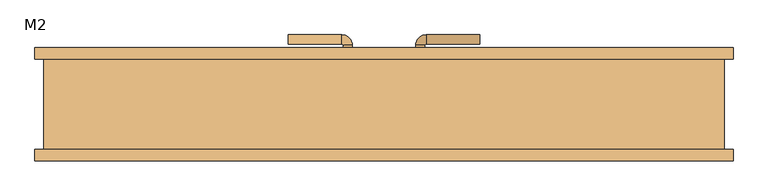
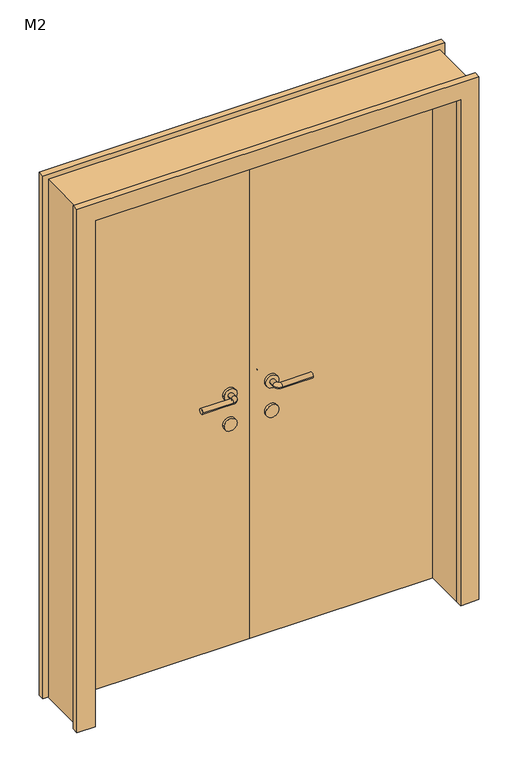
"""IFC4 building model written with IfcOpenShell, lengths in millimetres: door geometry, 双面嵌板木门 1 : M2."""

import ifcopenshell
import ifcopenshell.guid

model = None  # the IFC model being written
_history = None  # IfcOwnerHistory: only IFC2X3 demands one
_inside = {}  # id of a spatial element -> (the spatial element, [elements in it])
_under = {}  # id of a project, library or spatial element -> (it, [spatial elements below it])
_declared = {}  # id of a project -> (the project, [libraries it declares])
_typed = {}  # id of a type object -> (the type object, [elements of that type])
_made_of = {}  # id of a material, layer set ... -> (it, [elements and type objects made of it])


def new_model(schema):
    """Start an empty IFC model of exactly this schema.

    Asked for "IFC4X3", IfcOpenShell would pick the latest addendum, in which some entities
    have other attributes; the version numbers below select the first issue.
    IFC2X3 requires an IfcOwnerHistory on every rooted entity: one is made here for all.
    """
    global model, _history
    if schema == "IFC4X3":
        model = ifcopenshell.file(schema_version=(4, 3, 0, 0))
    else:
        model = ifcopenshell.file(schema=schema)
    _inside.clear()
    _under.clear()
    _declared.clear()
    _typed.clear()
    _made_of.clear()
    _history = None
    if model.schema == "IFC2X3":
        org = make("IfcOrganization", Name="unknown")
        user = make(
            "IfcPersonAndOrganization",
            ThePerson=make("IfcPerson", FamilyName="unknown"),
            TheOrganization=org,
        )
        app = make(
            "IfcApplication",
            ApplicationDeveloper=org,
            Version="unknown",
            ApplicationFullName="unknown",
            ApplicationIdentifier="unknown",
        )
        _history = make(
            "IfcOwnerHistory",
            OwningUser=user,
            OwningApplication=app,
            ChangeAction="ADDED",
            CreationDate=0,
        )
    return model


def make(cls, **values):
    """One entity of the class cls with the attributes given. An attribute that is None is left unset."""
    return model.create_entity(
        cls, **{name: value for name, value in values.items() if value is not None}
    )


def rooted(cls, **values):
    """An entity with a GlobalId (a new one), such as an element, a storey or a relation."""
    return make(cls, GlobalId=ifcopenshell.guid.new(), OwnerHistory=_history, **values)


def si_unit(unit_type, name, prefix=None):
    """IfcSIUnit, for example si_unit("LENGTHUNIT", "METRE", prefix="MILLI")."""
    return make("IfcSIUnit", UnitType=unit_type, Prefix=prefix, Name=name)


def assignment(units):
    """IfcUnitAssignment: the units of a project."""
    return None if units is None else make("IfcUnitAssignment", Units=units)


def point(xyz):
    """IfcCartesianPoint."""
    return None if xyz is None else make("IfcCartesianPoint", Coordinates=xyz)


def direction(xyz):
    """IfcDirection."""
    return None if xyz is None else make("IfcDirection", DirectionRatios=xyz)


def frame(location, z_axis=None, x_axis=None):
    """IfcAxis2Placement3D, a coordinate frame: its origin and axes. An axis left out is left unset."""
    return make(
        "IfcAxis2Placement3D",
        Location=point(location),
        Axis=direction(z_axis),
        RefDirection=direction(x_axis),
    )


def frame_2d(location, x_axis=None):
    """IfcAxis2Placement2D, a coordinate frame in the plane: its origin and x axis."""
    return make(
        "IfcAxis2Placement2D", Location=point(location), RefDirection=direction(x_axis)
    )


def origin():
    """The frame at (0, 0, 0) with its axes left unset."""
    return frame((0.0, 0.0, 0.0))


def origin_with_axes():
    """The frame at (0, 0, 0) with the z axis (0, 0, 1) and the x axis (1, 0, 0) written out."""
    return frame((0.0, 0.0, 0.0), z_axis=(0.0, 0.0, 1.0), x_axis=(1.0, 0.0, 0.0))


def place(relative_to, where):
    """IfcLocalPlacement: puts the frame where relative to a parent placement (None: the world)."""
    return make(
        "IfcLocalPlacement", PlacementRelTo=relative_to, RelativePlacement=where
    )


def context(
    kind, dimensions, precision=None, world=None, true_north=None, identifier=None
):
    """IfcGeometricRepresentationContext, for example the 3D "Model" context."""
    return make(
        "IfcGeometricRepresentationContext",
        ContextIdentifier=identifier,
        ContextType=kind,
        CoordinateSpaceDimension=dimensions,
        Precision=precision,
        WorldCoordinateSystem=world,
        TrueNorth=true_north,
    )


def project(units=None, contexts=None):
    """IfcProject with its units and contexts."""
    return rooted(
        "IfcProject",
        Name="project",
        RepresentationContexts=contexts,
        UnitsInContext=assignment(units),
    )


def spatial(cls, under=None, at=None, **own):
    """A site, building, storey or space (cls), placed at a placement, below another one or the project."""
    s = rooted(cls, ObjectPlacement=at, **own)
    if under is not None:
        _under.setdefault(under.id(), (under, []))[1].append(s)
    return s


def polyline(points):
    """IfcPolyline through the points."""
    return make("IfcPolyline", Points=[point(p) for p in points])


def circle_curve(where, radius):
    """IfcCircle in the frame where."""
    return make("IfcCircle", Position=where, Radius=radius)


def ellipse_curve(where, semi_axis1, semi_axis2):
    """IfcEllipse in the frame where."""
    return make(
        "IfcEllipse", Position=where, SemiAxis1=semi_axis1, SemiAxis2=semi_axis2
    )


def trimmed(basis, trim1, trim2, sense, master):
    """IfcTrimmedCurve: the piece of a basis curve between two trims."""
    return make(
        "IfcTrimmedCurve",
        BasisCurve=basis,
        Trim1=trim1,
        Trim2=trim2,
        SenseAgreement=sense,
        MasterRepresentation=master,
    )


def segment(curve, same_sense, transition):
    """IfcCompositeCurveSegment."""
    return make(
        "IfcCompositeCurveSegment",
        Transition=transition,
        SameSense=same_sense,
        ParentCurve=curve,
    )


def composite_curve(segments, self_intersect=None):
    """IfcCompositeCurve: segments joined end to end."""
    return make("IfcCompositeCurve", Segments=segments, SelfIntersect=self_intersect)


def outline(outer, holes=None, kind="AREA"):
    """IfcArbitraryClosedProfileDef: a profile drawn as a closed curve; with holes, ...WithVoids."""
    if holes is None:
        return make("IfcArbitraryClosedProfileDef", ProfileType=kind, OuterCurve=outer)
    return make(
        "IfcArbitraryProfileDefWithVoids",
        ProfileType=kind,
        OuterCurve=outer,
        InnerCurves=holes,
    )


def extrude(swept, where, along, depth):
    """IfcExtrudedAreaSolid: the profile swept, set in the frame where, extruded along a direction by depth."""
    return make(
        "IfcExtrudedAreaSolid",
        SweptArea=swept,
        Position=where,
        ExtrudedDirection=direction(along),
        Depth=depth,
    )


def shape(context_of_items, identifier, shape_type, items):
    """IfcShapeRepresentation: the items that make up one representation, for example the "Body"."""
    return make(
        "IfcShapeRepresentation",
        ContextOfItems=context_of_items,
        RepresentationIdentifier=identifier,
        RepresentationType=shape_type,
        Items=items,
    )


def source(mapping_origin, context_of_items, identifier, shape_type, items):
    """IfcRepresentationMap: a shape defined once, which mapped items show again and again."""
    return make(
        "IfcRepresentationMap",
        MappingOrigin=mapping_origin,
        MappedRepresentation=shape(context_of_items, identifier, shape_type, items),
    )


def transform(
    local_origin,
    x_axis=None,
    y_axis=None,
    z_axis=None,
    scale=None,
    scale2=None,
    scale3=None,
    uniform=True,
):
    """IfcCartesianTransformationOperator3D, or its non-uniform kind. x_axis, y_axis, z_axis: its Axis1, 2, 3."""
    if uniform:
        return make(
            "IfcCartesianTransformationOperator3D",
            Axis1=direction(x_axis),
            Axis2=direction(y_axis),
            LocalOrigin=point(local_origin),
            Scale=scale,
            Axis3=direction(z_axis),
        )
    return make(
        "IfcCartesianTransformationOperator3DnonUniform",
        Axis1=direction(x_axis),
        Axis2=direction(y_axis),
        LocalOrigin=point(local_origin),
        Scale=scale,
        Axis3=direction(z_axis),
        Scale2=scale2,
        Scale3=scale3,
    )


def mapped(mapping_source, mapping_target):
    """IfcMappedItem: shows the shape of a source again, moved by a transform."""
    return make(
        "IfcMappedItem", MappingSource=mapping_source, MappingTarget=mapping_target
    )


def made_of(thing, what):
    """Note that an element or type object is made of a material, layer set ...; save() writes the relation."""
    if what is not None:
        _made_of.setdefault(what.id(), (what, []))[1].append(thing)
    return thing


def element(
    cls,
    number,
    at=None,
    inside=None,
    cuts=None,
    type_object=None,
    material=None,
    context=None,
    identifier="Body",
    shape_type=None,
    held_by="IfcProductDefinitionShape",
    body=None,
    shapes=None,
    **own,
):
    """One element of the class cls, such as IfcWall. Its Tag is "e" and its number.

    at: its placement. inside: the storey or other place that contains it. cuts: it is an
    opening in that element (IfcRelVoidsElement). A single representation is given by context,
    identifier, shape_type and body (its items); several are given by shapes. held_by: the class
    of the entity that holds the representations. save() writes the other relations.
    """
    e = rooted(cls, Tag="e%d" % number, ObjectPlacement=at, **own)
    if body is not None:
        shapes = [shape(context, identifier, shape_type, body)]
    if shapes is not None:
        e.Representation = make(held_by, Representations=shapes)
    if inside is not None:
        _inside.setdefault(inside.id(), (inside, []))[1].append(e)
    if cuts is not None:
        rooted(
            "IfcRelVoidsElement", RelatingBuildingElement=cuts, RelatedOpeningElement=e
        )
    if type_object is not None:
        _typed.setdefault(type_object.id(), (type_object, []))[1].append(e)
    return made_of(e, material)


def aggregate(whole, parts):
    """IfcRelAggregates: a whole, such as a stair, and the parts it consists of."""
    return rooted("IfcRelAggregates", RelatingObject=whole, RelatedObjects=parts)


def save(model, path):
    """Write the relations noted so far, then the file.

    IfcRelAggregates (storeys below a building ...), IfcRelContainedInSpatialStructure (elements
    in a storey), IfcRelDefinesByType, IfcRelAssociatesMaterial and IfcRelDeclares: one each for
    every whole, place, type object, material and project.
    """
    for whole, parts in _under.values():
        aggregate(whole, parts)
    for where, things in _inside.values():
        rooted(
            "IfcRelContainedInSpatialStructure",
            RelatedElements=things,
            RelatingStructure=where,
        )
    for kind, things in _typed.values():
        rooted("IfcRelDefinesByType", RelatedObjects=things, RelatingType=kind)
    for what, things in _made_of.values():
        rooted("IfcRelAssociatesMaterial", RelatedObjects=things, RelatingMaterial=what)
    for by, libraries in _declared.values():
        rooted("IfcRelDeclares", RelatingContext=by, RelatedDefinitions=libraries)
    model.write(path)


def plane_surface(at):
    """IfcPlane: the flat surface through the origin of the frame at, square to its z axis."""
    return make("IfcPlane", Position=at)


def cylinder_surface(at, radius):
    """IfcCylindricalSurface: all points at the distance radius from the z axis of the frame at."""
    return make("IfcCylindricalSurface", Position=at, Radius=radius)


def revolved_surface(curve, axis_point, axis_direction):
    """IfcSurfaceOfRevolution: the curve turned about the line through axis_point along axis_direction."""
    return make(
        "IfcSurfaceOfRevolution",
        SweptCurve=make("IfcArbitraryOpenProfileDef", ProfileType="CURVE", Curve=curve),
        AxisPosition=make("IfcAxis1Placement", Location=point(axis_point), Axis=direction(axis_direction)),
    )


def advanced_brep(points, edges, surfaces, faces):
    """IfcAdvancedBrep: a solid bounded by faces that lie on surfaces and meet in shared edges.

    An edge is (start, end): straight between two places in points (the first is 0);
    or (start, end, curve); or (start, end, curve, False) where it runs against its curve.
    A face is (place in surfaces, loops), or (place, loops, False) where it looks against
    its surface's normal. A loop lists edges by number (the first is 1), with a minus sign
    where the edge is run from its end to its start. The first loop is the outer one.
    """
    corners = [point(p) for p in points]
    vertices = [make("IfcVertexPoint", VertexGeometry=c) for c in corners]
    made = []
    for start, end, *more in edges:
        made.append(
            make(
                "IfcEdgeCurve",
                EdgeStart=vertices[start],
                EdgeEnd=vertices[end],
                EdgeGeometry=more[0] if more else make("IfcPolyline", Points=[corners[start], corners[end]]),
                SameSense=more[1] if len(more) > 1 else True,
            )
        )
    hull = []
    for where, loops, *sense in faces:
        bounds = []
        for j, loop in enumerate(loops):
            ring = [make("IfcOrientedEdge", EdgeElement=made[abs(k) - 1], Orientation=k > 0) for k in loop]
            bounds.append(
                make(
                    "IfcFaceOuterBound" if j == 0 else "IfcFaceBound",
                    Bound=make("IfcEdgeLoop", EdgeList=ring),
                    Orientation=True,
                )
            )
        hull.append(make("IfcAdvancedFace", Bounds=bounds, FaceSurface=surfaces[where], SameSense=sense[0] if sense else True))
    return make("IfcAdvancedBrep", Outer=make("IfcClosedShell", CfsFaces=hull))


def m2_692f9d9b(model_context):
    return source(origin(), model_context, "Body", "SolidModel", [
        extrude(outline(composite_curve([segment(trimmed(circle_curve(frame_2d((900.0, 80.0)), 25.0), [point((900.0, 105.0))], [point((900.0, 55.0))], False, "CARTESIAN"), True, "CONTINUOUS"), segment(trimmed(circle_curve(frame_2d((900.0, 80.0)), 25.0), [point((900.0, 55.0))], [point((900.0, 105.0))], False, "CARTESIAN"), True, "CONTINUOUS")], self_intersect=False)), frame((0.0, 100.0, 0.0), z_axis=(0.0, 1.0, 0.0), x_axis=(0.0, 0.0, 1.0)), (0.0, 0.0, 1.0), 10.0),
        extrude(outline(composite_curve([segment(trimmed(circle_curve(frame_2d((900.0, 80.0)), 25.0), [point((900.0, 105.0))], [point((900.0, 55.0))], False, "CARTESIAN"), True, "CONTINUOUS"), segment(trimmed(circle_curve(frame_2d((900.0, 80.0)), 25.0), [point((900.0, 55.0))], [point((900.0, 105.0))], False, "CARTESIAN"), True, "CONTINUOUS")], self_intersect=False)), frame((0.0, 50.0, 0.0), z_axis=(0.0, 1.0, 0.0), x_axis=(0.0, 0.0, 1.0)), (0.0, 0.0, 1.0), 10.0),
        advanced_brep(
        [(70.0, 110.0, 1020.0), (90.0, 110.0, 1020.0), (70.0, 130.6133551, 1020.0), (90.0, 130.6133551, 1020.0), (211.580964, 153.580964, 1020.0), (211.580964, 133.580964, 1020.0), (92.9676089, 133.580964, 1020.0), (92.9676089, 153.580964, 1020.0)],
        [
            (0, 1, circle_curve(frame((80.0, 110.0, 1020.0), z_axis=(0.0, -1.0, 0.0), x_axis=(1.0, 0.0, 0.0)), 10.0)),
            (1, 0, circle_curve(frame((80.0, 110.0, 1020.0), z_axis=(0.0, -1.0, 0.0), x_axis=(1.0, 0.0, 0.0)), 10.0)),
            (0, 2),
            (2, 3, circle_curve(frame((80.0, 130.6133551, 1020.0), z_axis=(0.0, -1.0, 0.0), x_axis=(1.0, 0.0, 0.0)), 10.0)),
            (3, 1),
            (3, 2, circle_curve(frame((80.0, 130.6133551, 1020.0), z_axis=(0.0, -1.0, 0.0), x_axis=(1.0, 0.0, 0.0)), 10.0)),
            (4, 5, circle_curve(frame((211.580964, 143.580964, 1020.0), z_axis=(1.0, 0.0, 0.0), x_axis=(0.0, -1.0, 0.0)), 10.0)),
            (5, 4, circle_curve(frame((211.580964, 143.580964, 1020.0), z_axis=(1.0, 0.0, 0.0), x_axis=(0.0, -1.0, 0.0)), 10.0)),
            (6, 7, circle_curve(frame((92.9676089, 143.580964, 1020.0), z_axis=(-1.0, 0.0, 0.0), x_axis=(0.0, -1.0, 0.0)), 10.0)),
            (7, 2, circle_curve(frame((92.9676089, 130.6133551, 1020.0), z_axis=(0.0, 0.0, 1.0), x_axis=(-1.0, 0.0, 0.0)), 22.9676089)),
            (3, 6, circle_curve(frame((92.9676089, 130.6133551, 1020.0), z_axis=(0.0, 0.0, -1.0), x_axis=(-1.0, 0.0, 0.0)), 2.9676089)),
            (7, 6, circle_curve(frame((92.9676089, 143.580964, 1020.0), z_axis=(-1.0, 0.0, 0.0), x_axis=(0.0, -1.0, 0.0)), 10.0)),
            (6, 5),
            (4, 7),
        ],
        [
            plane_surface(frame((80.0, 110.0, 900.0), z_axis=(0.0, -1.0, 0.0), x_axis=(0.0, 0.0, 1.0))),
            cylinder_surface(frame((80.0, 110.0, 1020.0), z_axis=(0.0, -1.0, 0.0), x_axis=(1.0, 0.0, 0.0)), 10.0),
            plane_surface(frame((211.580964, 143.580964, 900.0), z_axis=(1.0, 0.0, 0.0), x_axis=(0.0, 0.0, 1.0))),
            revolved_surface(trimmed(ellipse_curve(frame((80.0, 130.6133551, 1020.0), z_axis=(0.0, 1.0, 0.0), x_axis=(1.0, 0.0, 0.0)), 10.0, 10.0), [point((70.0, 130.6133551, 1020.0))], [point((90.0, 130.6133551, 1020.0))], True, "CARTESIAN"), (92.9676089, 130.6133551, 900.0), (0.0, 0.0, 1.0)),
            revolved_surface(trimmed(ellipse_curve(frame((80.0, 130.6133551, 1020.0), z_axis=(0.0, 1.0, 0.0), x_axis=(1.0, 0.0, 0.0)), 10.0, 10.0), [point((90.0, 130.6133551, 1020.0))], [point((70.0, 130.6133551, 1020.0))], True, "CARTESIAN"), (92.9676089, 130.6133551, 900.0), (0.0, 0.0, 1.0)),
            cylinder_surface(frame((92.9676089, 143.580964, 1020.0), z_axis=(-1.0, 0.0, 0.0), x_axis=(0.0, -1.0, 0.0)), 10.0),
        ],
        [
            (0, [[1, 2]]),
            (1, [[3, 4, 5, -1]]),
            (1, [[-5, 6, -3, -2]]),
            (2, [[7, 8]]),
            (3, [[9, 10, -6, 11]]),
            (4, [[12, -11, -4, -10]]),
            (5, [[13, -7, 14, -9]]),
            (5, [[-14, -8, -13, -12]]),
        ],
    ),
        extrude(outline(composite_curve([segment(trimmed(circle_curve(frame_2d((1020.0, 80.0)), 25.0), [point((1020.0, 105.0))], [point((1020.0, 55.0))], False, "CARTESIAN"), True, "CONTINUOUS"), segment(trimmed(circle_curve(frame_2d((1020.0, 80.0)), 25.0), [point((1020.0, 55.0))], [point((1020.0, 105.0))], False, "CARTESIAN"), True, "CONTINUOUS")], self_intersect=False)), frame((0.0, 100.0, 0.0), z_axis=(0.0, 1.0, 0.0), x_axis=(0.0, 0.0, 1.0)), (0.0, 0.0, 1.0), 10.0),
        advanced_brep(
        [(90.0, 50.0, 1020.0), (70.0, 50.0, 1020.0), (70.0, 29.386645, 1020.0), (90.0, 29.386645, 1020.0), (211.580964, 26.419036, 1020.0), (211.580964, 6.419036, 1020.0), (92.9676089, 6.419036, 1020.0), (92.9676089, 26.419036, 1020.0)],
        [
            (0, 1, circle_curve(frame((80.0, 50.0, 1020.0), z_axis=(0.0, 1.0, 0.0), x_axis=(-1.0, 0.0, 0.0)), 10.0)),
            (1, 0, circle_curve(frame((80.0, 50.0, 1020.0), z_axis=(0.0, 1.0, 0.0), x_axis=(-1.0, 0.0, 0.0)), 10.0)),
            (1, 2),
            (2, 3, circle_curve(frame((80.0, 29.386645, 1020.0), z_axis=(0.0, 1.0, 0.0), x_axis=(-1.0, 0.0, 0.0)), 10.0)),
            (3, 0),
            (3, 2, circle_curve(frame((80.0, 29.386645, 1020.0), z_axis=(0.0, 1.0, 0.0), x_axis=(-1.0, 0.0, 0.0)), 10.0)),
            (4, 5, circle_curve(frame((211.580964, 16.419036, 1020.0), z_axis=(1.0, 0.0, 0.0), x_axis=(0.0, -1.0, 0.0)), 10.0)),
            (5, 4, circle_curve(frame((211.580964, 16.419036, 1020.0), z_axis=(1.0, 0.0, 0.0), x_axis=(0.0, -1.0, 0.0)), 10.0)),
            (6, 7, circle_curve(frame((92.9676089, 16.419036, 1020.0), z_axis=(-1.0, 0.0, 0.0), x_axis=(0.0, -1.0, 0.0)), 10.0)),
            (7, 3, circle_curve(frame((92.9676089, 29.386645, 1020.0), z_axis=(0.0, 0.0, -1.0), x_axis=(-1.0, 0.0, 0.0)), 2.9676089)),
            (2, 6, circle_curve(frame((92.9676089, 29.386645, 1020.0), z_axis=(0.0, 0.0, 1.0), x_axis=(-1.0, 0.0, 0.0)), 22.9676089)),
            (7, 6, circle_curve(frame((92.9676089, 16.419036, 1020.0), z_axis=(-1.0, 0.0, 0.0), x_axis=(0.0, -1.0, 0.0)), 10.0)),
            (6, 5),
            (4, 7),
        ],
        [
            plane_surface(frame((80.0, 50.0, 900.0), z_axis=(0.0, 1.0, 0.0), x_axis=(0.0, 0.0, 1.0))),
            cylinder_surface(frame((80.0, 50.0, 1020.0), z_axis=(0.0, 1.0, 0.0), x_axis=(-1.0, 0.0, 0.0)), 10.0),
            plane_surface(frame((211.580964, 16.419036, 900.0), z_axis=(1.0, 0.0, 0.0), x_axis=(0.0, 0.0, 1.0))),
            revolved_surface(trimmed(ellipse_curve(frame((80.0, 29.386645, 1020.0), z_axis=(0.0, -1.0, 0.0), x_axis=(-1.0, 0.0, 0.0)), 10.0, 10.0), [point((90.0, 29.386645, 1020.0))], [point((70.0, 29.386645, 1020.0))], True, "CARTESIAN"), (92.9676089, 29.386645, 900.0), (0.0, 0.0, -1.0)),
            revolved_surface(trimmed(ellipse_curve(frame((80.0, 29.386645, 1020.0), z_axis=(0.0, -1.0, 0.0), x_axis=(-1.0, 0.0, 0.0)), 10.0, 10.0), [point((70.0, 29.386645, 1020.0))], [point((90.0, 29.386645, 1020.0))], True, "CARTESIAN"), (92.9676089, 29.386645, 900.0), (0.0, 0.0, -1.0)),
            cylinder_surface(frame((92.9676089, 16.419036, 1020.0), z_axis=(-1.0, 0.0, 0.0), x_axis=(0.0, -1.0, 0.0)), 10.0),
        ],
        [
            (0, [[1, 2]]),
            (1, [[3, 4, 5, -2]]),
            (1, [[-5, 6, -3, -1]]),
            (2, [[7, 8]]),
            (3, [[9, 10, -4, 11]]),
            (4, [[12, -11, -6, -10]]),
            (5, [[13, -7, 14, -9]]),
            (5, [[-14, -8, -13, -12]]),
        ],
    ),
        extrude(outline(composite_curve([segment(trimmed(circle_curve(frame_2d((1020.0, 80.0)), 25.0), [point((1020.0, 105.0))], [point((1020.0, 55.0))], False, "CARTESIAN"), True, "CONTINUOUS"), segment(trimmed(circle_curve(frame_2d((1020.0, 80.0)), 25.0), [point((1020.0, 55.0))], [point((1020.0, 105.0))], False, "CARTESIAN"), True, "CONTINUOUS")], self_intersect=False)), frame((0.0, 50.0, 0.0), z_axis=(0.0, 1.0, 0.0), x_axis=(0.0, 0.0, 1.0)), (0.0, 0.0, 1.0), 10.0),
        extrude(outline(composite_curve([segment(trimmed(circle_curve(frame_2d((900.0, -80.0)), 25.0), [point((900.0, -105.0))], [point((900.0, -55.0))], False, "CARTESIAN"), True, "CONTINUOUS"), segment(trimmed(circle_curve(frame_2d((900.0, -80.0)), 25.0), [point((900.0, -55.0))], [point((900.0, -105.0))], False, "CARTESIAN"), True, "CONTINUOUS")], self_intersect=False)), frame((0.0, 100.0, 0.0), z_axis=(0.0, 1.0, 0.0), x_axis=(0.0, 0.0, 1.0)), (0.0, 0.0, 1.0), 10.0),
        extrude(outline(composite_curve([segment(trimmed(circle_curve(frame_2d((900.0, -80.0)), 25.0), [point((900.0, -105.0))], [point((900.0, -55.0))], False, "CARTESIAN"), True, "CONTINUOUS"), segment(trimmed(circle_curve(frame_2d((900.0, -80.0)), 25.0), [point((900.0, -55.0))], [point((900.0, -105.0))], False, "CARTESIAN"), True, "CONTINUOUS")], self_intersect=False)), frame((0.0, 50.0, 0.0), z_axis=(0.0, 1.0, 0.0), x_axis=(0.0, 0.0, 1.0)), (0.0, 0.0, 1.0), 10.0),
        advanced_brep(
        [(-70.0, 110.0, 1020.0), (-90.0, 110.0, 1020.0), (-90.0, 130.6133551, 1020.0), (-70.0, 130.6133551, 1020.0), (-211.580964, 153.580964, 1020.0), (-211.580964, 133.580964, 1020.0), (-92.9676089, 133.580964, 1020.0), (-92.9676089, 153.580964, 1020.0)],
        [
            (0, 1, circle_curve(frame((-80.0, 110.0, 1020.0), z_axis=(0.0, -1.0, 0.0), x_axis=(-1.0, 0.0, 0.0)), 10.0)),
            (1, 0, circle_curve(frame((-80.0, 110.0, 1020.0), z_axis=(0.0, -1.0, 0.0), x_axis=(-1.0, 0.0, 0.0)), 10.0)),
            (1, 2),
            (2, 3, circle_curve(frame((-80.0, 130.6133551, 1020.0), z_axis=(0.0, -1.0, 0.0), x_axis=(-1.0, 0.0, 0.0)), 10.0)),
            (3, 0),
            (3, 2, circle_curve(frame((-80.0, 130.6133551, 1020.0), z_axis=(0.0, -1.0, 0.0), x_axis=(-1.0, 0.0, 0.0)), 10.0)),
            (4, 5, circle_curve(frame((-211.580964, 143.580964, 1020.0), z_axis=(-1.0, 0.0, 0.0), x_axis=(0.0, -1.0, 0.0)), 10.0)),
            (5, 4, circle_curve(frame((-211.580964, 143.580964, 1020.0), z_axis=(-1.0, 0.0, 0.0), x_axis=(0.0, -1.0, 0.0)), 10.0)),
            (6, 2, circle_curve(frame((-92.9676089, 130.6133551, 1020.0), z_axis=(0.0, 0.0, -1.0), x_axis=(1.0, 0.0, 0.0)), 2.9676089)),
            (3, 7, circle_curve(frame((-92.9676089, 130.6133551, 1020.0), z_axis=(0.0, 0.0, 1.0), x_axis=(1.0, 0.0, 0.0)), 22.9676089)),
            (7, 6, circle_curve(frame((-92.9676089, 143.580964, 1020.0), z_axis=(1.0, 0.0, 0.0), x_axis=(0.0, -1.0, 0.0)), 10.0)),
            (6, 7, circle_curve(frame((-92.9676089, 143.580964, 1020.0), z_axis=(1.0, 0.0, 0.0), x_axis=(0.0, -1.0, 0.0)), 10.0)),
            (7, 4),
            (5, 6),
        ],
        [
            plane_surface(frame((-80.0, 110.0, 900.0), z_axis=(0.0, -1.0, 0.0), x_axis=(0.0, 0.0, 1.0))),
            cylinder_surface(frame((-80.0, 110.0, 1020.0), z_axis=(0.0, -1.0, 0.0), x_axis=(-1.0, 0.0, 0.0)), 10.0),
            plane_surface(frame((-211.580964, 143.580964, 900.0), z_axis=(-1.0, 0.0, 0.0), x_axis=(0.0, 0.0, 1.0))),
            revolved_surface(trimmed(ellipse_curve(frame((-80.0, 130.6133551, 1020.0), z_axis=(0.0, -1.0, 0.0), x_axis=(-1.0, 0.0, 0.0)), 10.0, 10.0), [point((-70.0, 130.6133551, 1020.0))], [point((-90.0, 130.6133551, 1020.0))], True, "CARTESIAN"), (-92.9676089, 130.6133551, 900.0), (0.0, 0.0, 1.0)),
            revolved_surface(trimmed(ellipse_curve(frame((-80.0, 130.6133551, 1020.0), z_axis=(0.0, -1.0, 0.0), x_axis=(-1.0, 0.0, 0.0)), 10.0, 10.0), [point((-90.0, 130.6133551, 1020.0))], [point((-70.0, 130.6133551, 1020.0))], True, "CARTESIAN"), (-92.9676089, 130.6133551, 900.0), (0.0, 0.0, 1.0)),
            cylinder_surface(frame((-92.9676089, 143.580964, 1020.0), z_axis=(1.0, 0.0, 0.0), x_axis=(0.0, -1.0, 0.0)), 10.0),
        ],
        [
            (0, [[1, 2]]),
            (1, [[-2, 3, 4, 5]]),
            (1, [[-1, -5, 6, -3]]),
            (2, [[7, 8]]),
            (3, [[9, -6, 10, 11]]),
            (4, [[-10, -4, -9, 12]]),
            (5, [[-11, 13, -8, 14]]),
            (5, [[-12, -14, -7, -13]]),
        ],
    ),
        extrude(outline(composite_curve([segment(trimmed(circle_curve(frame_2d((1020.0, -80.0)), 25.0), [point((1020.0, -105.0))], [point((1020.0, -55.0))], False, "CARTESIAN"), True, "CONTINUOUS"), segment(trimmed(circle_curve(frame_2d((1020.0, -80.0)), 25.0), [point((1020.0, -55.0))], [point((1020.0, -105.0))], False, "CARTESIAN"), True, "CONTINUOUS")], self_intersect=False)), frame((0.0, 100.0, 0.0), z_axis=(0.0, 1.0, 0.0), x_axis=(0.0, 0.0, 1.0)), (0.0, 0.0, 1.0), 10.0),
        advanced_brep(
        [(-90.0, 50.0, 1020.0), (-70.0, 50.0, 1020.0), (-90.0, 29.386645, 1020.0), (-70.0, 29.386645, 1020.0), (-211.580964, 26.419036, 1020.0), (-211.580964, 6.419036, 1020.0), (-92.9676089, 6.419036, 1020.0), (-92.9676089, 26.419036, 1020.0)],
        [
            (0, 1, circle_curve(frame((-80.0, 50.0, 1020.0), z_axis=(0.0, 1.0, 0.0), x_axis=(1.0, 0.0, 0.0)), 10.0)),
            (1, 0, circle_curve(frame((-80.0, 50.0, 1020.0), z_axis=(0.0, 1.0, 0.0), x_axis=(1.0, 0.0, 0.0)), 10.0)),
            (0, 2),
            (2, 3, circle_curve(frame((-80.0, 29.386645, 1020.0), z_axis=(0.0, 1.0, 0.0), x_axis=(1.0, 0.0, 0.0)), 10.0)),
            (3, 1),
            (3, 2, circle_curve(frame((-80.0, 29.386645, 1020.0), z_axis=(0.0, 1.0, 0.0), x_axis=(1.0, 0.0, 0.0)), 10.0)),
            (4, 5, circle_curve(frame((-211.580964, 16.419036, 1020.0), z_axis=(-1.0, 0.0, 0.0), x_axis=(0.0, -1.0, 0.0)), 10.0)),
            (5, 4, circle_curve(frame((-211.580964, 16.419036, 1020.0), z_axis=(-1.0, 0.0, 0.0), x_axis=(0.0, -1.0, 0.0)), 10.0)),
            (6, 3, circle_curve(frame((-92.9676089, 29.386645, 1020.0), z_axis=(0.0, 0.0, 1.0), x_axis=(1.0, 0.0, 0.0)), 22.9676089)),
            (2, 7, circle_curve(frame((-92.9676089, 29.386645, 1020.0), z_axis=(0.0, 0.0, -1.0), x_axis=(1.0, 0.0, 0.0)), 2.9676089)),
            (7, 6, circle_curve(frame((-92.9676089, 16.419036, 1020.0), z_axis=(1.0, 0.0, 0.0), x_axis=(0.0, -1.0, 0.0)), 10.0)),
            (6, 7, circle_curve(frame((-92.9676089, 16.419036, 1020.0), z_axis=(1.0, 0.0, 0.0), x_axis=(0.0, -1.0, 0.0)), 10.0)),
            (7, 4),
            (5, 6),
        ],
        [
            plane_surface(frame((-80.0, 50.0, 900.0), z_axis=(0.0, 1.0, 0.0), x_axis=(0.0, 0.0, 1.0))),
            cylinder_surface(frame((-80.0, 50.0, 1020.0), z_axis=(0.0, 1.0, 0.0), x_axis=(1.0, 0.0, 0.0)), 10.0),
            plane_surface(frame((-211.580964, 16.419036, 900.0), z_axis=(-1.0, 0.0, 0.0), x_axis=(0.0, 0.0, 1.0))),
            revolved_surface(trimmed(ellipse_curve(frame((-80.0, 29.386645, 1020.0), z_axis=(0.0, 1.0, 0.0), x_axis=(1.0, 0.0, 0.0)), 10.0, 10.0), [point((-90.0, 29.386645, 1020.0))], [point((-70.0, 29.386645, 1020.0))], True, "CARTESIAN"), (-92.9676089, 29.386645, 900.0), (0.0, 0.0, -1.0)),
            revolved_surface(trimmed(ellipse_curve(frame((-80.0, 29.386645, 1020.0), z_axis=(0.0, 1.0, 0.0), x_axis=(1.0, 0.0, 0.0)), 10.0, 10.0), [point((-70.0, 29.386645, 1020.0))], [point((-90.0, 29.386645, 1020.0))], True, "CARTESIAN"), (-92.9676089, 29.386645, 900.0), (0.0, 0.0, -1.0)),
            cylinder_surface(frame((-92.9676089, 16.419036, 1020.0), z_axis=(1.0, 0.0, 0.0), x_axis=(0.0, -1.0, 0.0)), 10.0),
        ],
        [
            (0, [[1, 2]]),
            (1, [[-1, 3, 4, 5]]),
            (1, [[-2, -5, 6, -3]]),
            (2, [[7, 8]]),
            (3, [[9, -4, 10, 11]]),
            (4, [[-10, -6, -9, 12]]),
            (5, [[-11, 13, -8, 14]]),
            (5, [[-12, -14, -7, -13]]),
        ],
    ),
        extrude(outline(composite_curve([segment(trimmed(circle_curve(frame_2d((1020.0, -80.0)), 25.0), [point((1020.0, -105.0))], [point((1020.0, -55.0))], False, "CARTESIAN"), True, "CONTINUOUS"), segment(trimmed(circle_curve(frame_2d((1020.0, -80.0)), 25.0), [point((1020.0, -55.0))], [point((1020.0, -105.0))], False, "CARTESIAN"), True, "CONTINUOUS")], self_intersect=False)), frame((0.0, 50.0, 0.0), z_axis=(0.0, 1.0, 0.0), x_axis=(0.0, 0.0, 1.0)), (0.0, 0.0, 1.0), 10.0),
        extrude(outline(polyline([(0.0, 770.0), (2120.0, 770.0), (2120.0, -770.0), (0.0, -770.0), (0.0, -700.0), (2050.0, -700.0), (2050.0, 700.0), (0.0, 700.0), (0.0, 770.0)])), frame((0.0, 100.0, 0.0), z_axis=(0.0, 1.0, 0.0), x_axis=(0.0, 0.0, 1.0)), (0.0, 0.0, 1.0), 25.0),
        extrude(outline(polyline([(2120.0, 770.0), (2120.0, -770.0), (0.0, -770.0), (0.0, -700.0), (2050.0, -700.0), (2050.0, 700.0), (0.0, 700.0), (0.0, 770.0), (2120.0, 770.0)])), frame((0.0, -125.0, 0.0), z_axis=(0.0, 1.0, 0.0), x_axis=(0.0, 0.0, 1.0)), (0.0, 0.0, 1.0), 25.0),
        extrude(outline(polyline([(700.0, 60.0), (0.0, 60.0), (0.0, 100.0), (700.0, 100.0), (700.0, 60.0)])), origin_with_axes(), (0.0, 0.0, 1.0), 2050.0),
        extrude(outline(polyline([(0.0, 60.0), (-700.0, 60.0), (-700.0, 100.0), (0.0, 100.0), (0.0, 60.0)])), origin_with_axes(), (0.0, 0.0, 1.0), 2050.0),
        extrude(outline(polyline([(2100.0, -750.0), (0.0, -750.0), (0.0, -700.0), (2050.0, -700.0), (2050.0, 700.0), (0.0, 700.0), (0.0, 750.0), (2100.0, 750.0), (2100.0, -750.0)])), frame((0.0, -100.0, 0.0), z_axis=(0.0, 1.0, 0.0), x_axis=(0.0, 0.0, 1.0)), (0.0, 0.0, 1.0), 200.0),
    ])


if __name__ == "__main__":
    model = new_model("IFC4")
    model_context = context("Model", 3, world=origin())
    ifc_project = project(units=[si_unit("LENGTHUNIT", "METRE", prefix="MILLI")], contexts=[model_context])
    site = spatial("IfcSite", under=ifc_project)
    building = spatial("IfcBuilding", under=site)
    placement = place(None, origin())
    m2_shape = m2_692f9d9b(model_context)
    element("IfcDoor", 1, ObjectType="双面嵌板木门 1 : M2", at=placement, inside=building, context=model_context, shape_type="MappedRepresentation", body=[
        mapped(m2_shape, transform((0.0, 0.0, 0.0), x_axis=(1.0, 0.0, 0.0), y_axis=(0.0, 1.0, 0.0), z_axis=(0.0, 0.0, 1.0))),
    ])
    save(model, "model.ifc")
